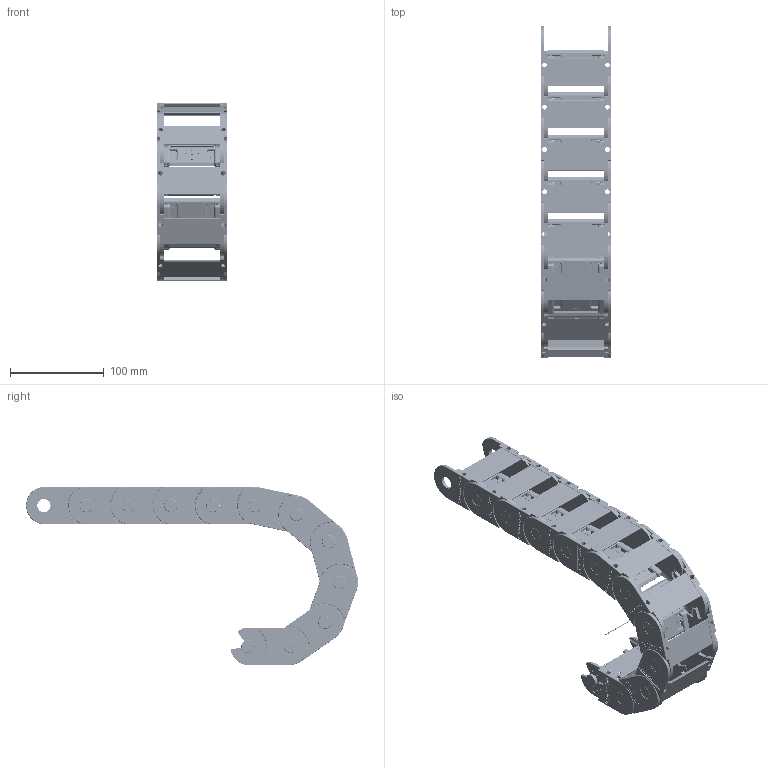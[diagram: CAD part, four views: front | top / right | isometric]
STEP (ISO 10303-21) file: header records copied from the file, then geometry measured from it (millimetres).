
FILE_DESCRIPTION((''),'2;1');
FILE_NAME('C:\Uebbing\PARAMETERKETTEN\KOLIBRI\Kol_40_075_2\Kol_40_075_2_R75.stp','2012-03-05T13:44:58',('Uebbing'),(''),'Autodesk Inventor 10','Autodesk Inventor 10','');
FILE_SCHEMA(('AUTOMOTIVE_DESIGN { 1 0 10303 214 1 1 1 1 }'));
Length unit declared in the file: millimetre
Products named in the file (5): KOLIBRI 40_075_2_PARAMETRISCH; Achse; Kol_40_075_2; Kol_40_075_2_Klappsteg
Assembly tree (14 placements, depth 3):
  KOLIBRI 40_075_2_PARAMETRISCH
    Achse
    Kol_40_075_2  x11
      Kol_40_075_2
      Kol_40_075_2_Klappsteg
Bounding box: 75 x 353.49 x 190 mm (x, y, z)
Volume: 386950.2 mm3; surface area: 264349.5 mm2
Topology: 23 solids, 23 shells, 9353 faces, 24864 edges, 15997 vertices
Faces by surface type: bspline 3905, plane 3566, cylinder 1596, torus 154, sphere 88, cone 44
Full cylindrical faces by diameter (mm): 1 x1, 1.609 x11, 2.825 x11, 3.4 x44, 3.5 x22, 4 x44, 5 x11, 6 x11, 14 x11, 14.1 x11
Entity records: 30460 total; most frequent: CARTESIAN_POINT 10846, ORIENTED_EDGE 4442, DIRECTION 3339, EDGE_CURVE 2221, VERTEX_POINT 1446, VECTOR 1273, LINE 1273, AXIS2_PLACEMENT_3D 1033
